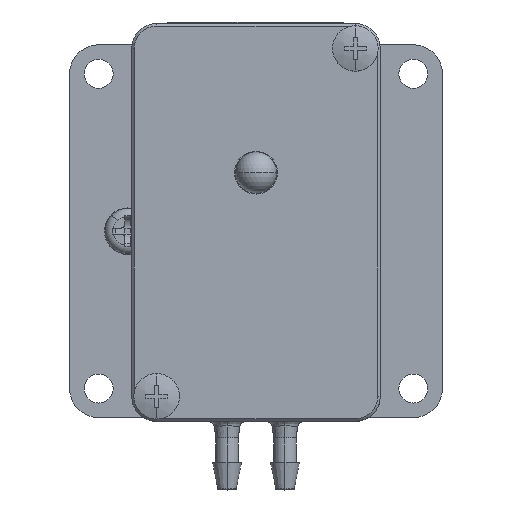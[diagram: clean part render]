
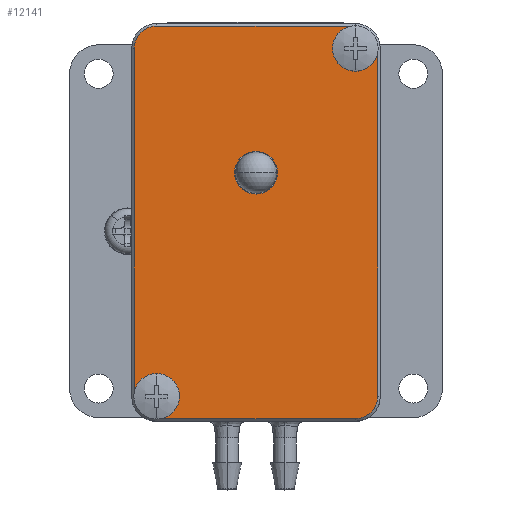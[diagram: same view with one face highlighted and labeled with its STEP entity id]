
A CAD part, top view. The second image highlights one B-rep face of the part: STEP entity #12141.
In plain terms, the highlighted planar face has unit normal (0, 0, 1).
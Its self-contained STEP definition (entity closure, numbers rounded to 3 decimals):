
#136 = VERTEX_POINT ( 'NONE', #13663 ) ;
#303 = CARTESIAN_POINT ( 'NONE',  ( 12., 15., 2.5 ) ) ;
#557 = VECTOR ( 'NONE', #2725, 1000. ) ;
#780 = CIRCLE ( 'NONE', #5383, 2.7 ) ;
#1042 = ORIENTED_EDGE ( 'NONE', *, *, #7017, .T. ) ;
#1130 = EDGE_CURVE ( 'NONE', #2039, #21979, #19491, .T. ) ;
#1207 = CARTESIAN_POINT ( 'NONE',  ( -12., -27., 2.5 ) ) ;
#1263 = AXIS2_PLACEMENT_3D ( 'NONE', #4267, #5960, #9785 ) ;
#1314 = ORIENTED_EDGE ( 'NONE', *, *, #9092, .F. ) ;
#1363 = CARTESIAN_POINT ( 'NONE',  ( -14.7, 15., 2.5 ) ) ;
#1485 = AXIS2_PLACEMENT_3D ( 'NONE', #22437, #16680, #18823 ) ;
#1492 = ORIENTED_EDGE ( 'NONE', *, *, #1130, .T. ) ;
#1681 = DIRECTION ( 'NONE',  ( 0., -1., 0. ) ) ;
#1740 = ORIENTED_EDGE ( 'NONE', *, *, #19773, .T. ) ;
#1850 = CARTESIAN_POINT ( 'NONE',  ( -2.575, 0., 2.5 ) ) ;
#1923 = VERTEX_POINT ( 'NONE', #5372 ) ;
#2039 = VERTEX_POINT ( 'NONE', #11471 ) ;
#2087 = EDGE_CURVE ( 'NONE', #8966, #13674, #11609, .T. ) ;
#2318 = AXIS2_PLACEMENT_3D ( 'NONE', #303, #15156, #20437 ) ;
#2489 = CIRCLE ( 'NONE', #9777, 2.7 ) ;
#2725 = DIRECTION ( 'NONE',  ( 1., 0., 0. ) ) ;
#2933 = ORIENTED_EDGE ( 'NONE', *, *, #8174, .T. ) ;
#3236 = DIRECTION ( 'NONE',  ( -1., 0., 0. ) ) ;
#4076 = AXIS2_PLACEMENT_3D ( 'NONE', #17020, #5530, #12833 ) ;
#4251 = EDGE_CURVE ( 'NONE', #23652, #15260, #22811, .T. ) ;
#4267 = CARTESIAN_POINT ( 'NONE',  ( 0., 0., 2.5 ) ) ;
#4362 = LINE ( 'NONE', #18535, #18630 ) ;
#4772 = LINE ( 'NONE', #15672, #557 ) ;
#5023 = CARTESIAN_POINT ( 'NONE',  ( -12., 17.7, 2.5 ) ) ;
#5345 = FACE_BOUND ( 'NONE', #9763, .T. ) ;
#5372 = CARTESIAN_POINT ( 'NONE',  ( 13.5, 15., 2.5 ) ) ;
#5383 = AXIS2_PLACEMENT_3D ( 'NONE', #1207, #23149, #3236 ) ;
#5530 = DIRECTION ( 'NONE',  ( 0., 0., -1. ) ) ;
#5570 = DIRECTION ( 'NONE',  ( 1., 0., 0. ) ) ;
#5643 = EDGE_CURVE ( 'NONE', #19021, #20777, #2489, .T. ) ;
#5697 = CIRCLE ( 'NONE', #9908, 2.7 ) ;
#5872 = ORIENTED_EDGE ( 'NONE', *, *, #16883, .T. ) ;
#5960 = DIRECTION ( 'NONE',  ( 0., 0., -1. ) ) ;
#6005 = CARTESIAN_POINT ( 'NONE',  ( 0., 0., 2.5 ) ) ;
#6290 = ORIENTED_EDGE ( 'NONE', *, *, #9862, .T. ) ;
#6603 = VERTEX_POINT ( 'NONE', #8806 ) ;
#6791 = FACE_BOUND ( 'NONE', #19846, .T. ) ;
#7017 = EDGE_CURVE ( 'NONE', #136, #11012, #780, .T. ) ;
#7122 = CARTESIAN_POINT ( 'NONE',  ( 2.575, 0., 2.5 ) ) ;
#7419 = EDGE_CURVE ( 'NONE', #15020, #1923, #9599, .T. ) ;
#7482 = ORIENTED_EDGE ( 'NONE', *, *, #5643, .T. ) ;
#7917 = CIRCLE ( 'NONE', #18229, 2.575 ) ;
#7943 = CARTESIAN_POINT ( 'NONE',  ( 12., 17.7, 2.5 ) ) ;
#8174 = EDGE_CURVE ( 'NONE', #20777, #136, #12349, .T. ) ;
#8193 = DIRECTION ( 'NONE',  ( 0., 0., 1. ) ) ;
#8278 = AXIS2_PLACEMENT_3D ( 'NONE', #22109, #18845, #9739 ) ;
#8578 = FACE_OUTER_BOUND ( 'NONE', #17760, .T. ) ;
#8764 = EDGE_LOOP ( 'NONE', ( #12262, #1492 ) ) ;
#8806 = CARTESIAN_POINT ( 'NONE',  ( 14.7, -27., 2.5 ) ) ;
#8872 = ORIENTED_EDGE ( 'NONE', *, *, #17246, .T. ) ;
#8966 = VERTEX_POINT ( 'NONE', #1850 ) ;
#9092 = EDGE_CURVE ( 'NONE', #1923, #15020, #13217, .T. ) ;
#9101 = VERTEX_POINT ( 'NONE', #20190 ) ;
#9599 = CIRCLE ( 'NONE', #2318, 1.5 ) ;
#9634 = EDGE_CURVE ( 'NONE', #21979, #2039, #14768, .T. ) ;
#9739 = DIRECTION ( 'NONE',  ( -1., 0., 0. ) ) ;
#9763 = EDGE_LOOP ( 'NONE', ( #1314, #18517 ) ) ;
#9777 = AXIS2_PLACEMENT_3D ( 'NONE', #17639, #8193, #15480 ) ;
#9785 = DIRECTION ( 'NONE',  ( -1., 0., 0. ) ) ;
#9827 = DIRECTION ( 'NONE',  ( -1., 0., 0. ) ) ;
#9862 = EDGE_CURVE ( 'NONE', #15260, #19021, #21446, .T. ) ;
#9908 = AXIS2_PLACEMENT_3D ( 'NONE', #11425, #16570, #22451 ) ;
#10534 = DIRECTION ( 'NONE',  ( -1., 0., 0. ) ) ;
#10717 = DIRECTION ( 'NONE',  ( 0., 0., 1. ) ) ;
#10833 = CARTESIAN_POINT ( 'NONE',  ( 0., 0., 2.5 ) ) ;
#11012 = VERTEX_POINT ( 'NONE', #20631 ) ;
#11425 = CARTESIAN_POINT ( 'NONE',  ( 12., -27., 2.5 ) ) ;
#11471 = CARTESIAN_POINT ( 'NONE',  ( -10.5, -27., 2.5 ) ) ;
#11609 = CIRCLE ( 'NONE', #1263, 2.575 ) ;
#11741 = VECTOR ( 'NONE', #10534, 1000. ) ;
#12141 = ADVANCED_FACE ( 'NONE', ( #8578, #5345, #15877, #6791 ), #19955, .F. ) ;
#12262 = ORIENTED_EDGE ( 'NONE', *, *, #9634, .T. ) ;
#12349 = LINE ( 'NONE', #17868, #15082 ) ;
#12650 = ORIENTED_EDGE ( 'NONE', *, *, #4251, .T. ) ;
#12696 = EDGE_CURVE ( 'NONE', #11012, #9101, #4772, .T. ) ;
#12833 = DIRECTION ( 'NONE',  ( -1., 0., 0. ) ) ;
#13038 = DIRECTION ( 'NONE',  ( 0., 1., 0. ) ) ;
#13217 = CIRCLE ( 'NONE', #16278, 1.5 ) ;
#13352 = CARTESIAN_POINT ( 'NONE',  ( 10.5, 15., 2.5 ) ) ;
#13663 = CARTESIAN_POINT ( 'NONE',  ( -14.7, -27., 2.5 ) ) ;
#13674 = VERTEX_POINT ( 'NONE', #7122 ) ;
#14077 = DIRECTION ( 'NONE',  ( 0., 0., -1. ) ) ;
#14768 = CIRCLE ( 'NONE', #4076, 1.5 ) ;
#15020 = VERTEX_POINT ( 'NONE', #13352 ) ;
#15082 = VECTOR ( 'NONE', #1681, 1000. ) ;
#15131 = AXIS2_PLACEMENT_3D ( 'NONE', #10833, #14077, #18135 ) ;
#15156 = DIRECTION ( 'NONE',  ( 0., 0., 1. ) ) ;
#15179 = CARTESIAN_POINT ( 'NONE',  ( -12., 17.7, 2.5 ) ) ;
#15243 = CARTESIAN_POINT ( 'NONE',  ( 14.7, 15., 2.5 ) ) ;
#15260 = VERTEX_POINT ( 'NONE', #7943 ) ;
#15480 = DIRECTION ( 'NONE',  ( -1., 0., 0. ) ) ;
#15672 = CARTESIAN_POINT ( 'NONE',  ( 12., -29.7, 2.5 ) ) ;
#15877 = FACE_BOUND ( 'NONE', #8764, .T. ) ;
#16278 = AXIS2_PLACEMENT_3D ( 'NONE', #21976, #10717, #5570 ) ;
#16570 = DIRECTION ( 'NONE',  ( 0., 0., 1. ) ) ;
#16680 = DIRECTION ( 'NONE',  ( 0., 0., -1. ) ) ;
#16883 = EDGE_CURVE ( 'NONE', #13674, #8966, #7917, .T. ) ;
#17020 = CARTESIAN_POINT ( 'NONE',  ( -12., -27., 2.5 ) ) ;
#17246 = EDGE_CURVE ( 'NONE', #6603, #23652, #4362, .T. ) ;
#17515 = ORIENTED_EDGE ( 'NONE', *, *, #12696, .T. ) ;
#17639 = CARTESIAN_POINT ( 'NONE',  ( -12., 15., 2.5 ) ) ;
#17760 = EDGE_LOOP ( 'NONE', ( #1042, #17515, #1740, #8872, #12650, #6290, #7482, #2933 ) ) ;
#17868 = CARTESIAN_POINT ( 'NONE',  ( -14.7, -27., 2.5 ) ) ;
#18135 = DIRECTION ( 'NONE',  ( -1., 0., 0. ) ) ;
#18229 = AXIS2_PLACEMENT_3D ( 'NONE', #6005, #22178, #9827 ) ;
#18517 = ORIENTED_EDGE ( 'NONE', *, *, #7419, .F. ) ;
#18535 = CARTESIAN_POINT ( 'NONE',  ( 14.7, 15., 2.5 ) ) ;
#18630 = VECTOR ( 'NONE', #13038, 1000. ) ;
#18823 = DIRECTION ( 'NONE',  ( -1., 0., 0. ) ) ;
#18845 = DIRECTION ( 'NONE',  ( 0., 0., 1. ) ) ;
#19021 = VERTEX_POINT ( 'NONE', #15179 ) ;
#19491 = CIRCLE ( 'NONE', #1485, 1.5 ) ;
#19773 = EDGE_CURVE ( 'NONE', #9101, #6603, #5697, .T. ) ;
#19846 = EDGE_LOOP ( 'NONE', ( #23385, #5872 ) ) ;
#19955 = PLANE ( 'NONE',  #15131 ) ;
#20190 = CARTESIAN_POINT ( 'NONE',  ( 12., -29.7, 2.5 ) ) ;
#20437 = DIRECTION ( 'NONE',  ( 1., 0., 0. ) ) ;
#20631 = CARTESIAN_POINT ( 'NONE',  ( -12., -29.7, 2.5 ) ) ;
#20777 = VERTEX_POINT ( 'NONE', #1363 ) ;
#21446 = LINE ( 'NONE', #5023, #11741 ) ;
#21976 = CARTESIAN_POINT ( 'NONE',  ( 12., 15., 2.5 ) ) ;
#21979 = VERTEX_POINT ( 'NONE', #23573 ) ;
#22109 = CARTESIAN_POINT ( 'NONE',  ( 12., 15., 2.5 ) ) ;
#22178 = DIRECTION ( 'NONE',  ( 0., 0., -1. ) ) ;
#22437 = CARTESIAN_POINT ( 'NONE',  ( -12., -27., 2.5 ) ) ;
#22451 = DIRECTION ( 'NONE',  ( -1., 0., 0. ) ) ;
#22811 = CIRCLE ( 'NONE', #8278, 2.7 ) ;
#23149 = DIRECTION ( 'NONE',  ( 0., 0., 1. ) ) ;
#23385 = ORIENTED_EDGE ( 'NONE', *, *, #2087, .T. ) ;
#23573 = CARTESIAN_POINT ( 'NONE',  ( -13.5, -27., 2.5 ) ) ;
#23652 = VERTEX_POINT ( 'NONE', #15243 ) ;
